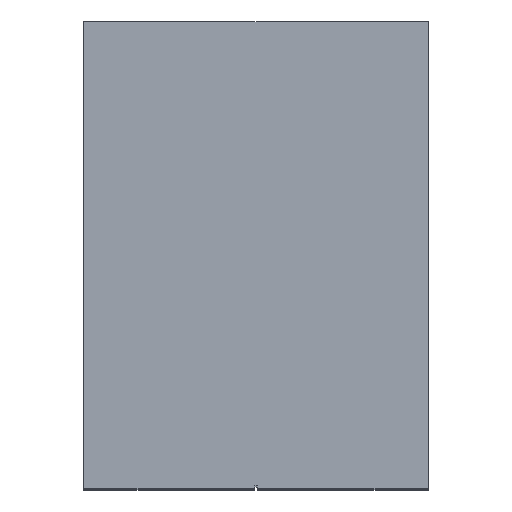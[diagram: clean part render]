
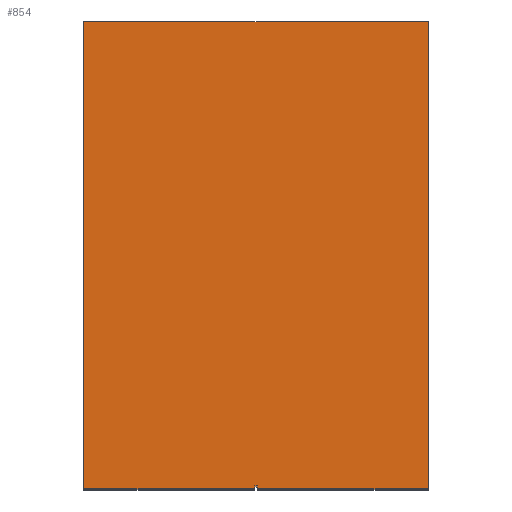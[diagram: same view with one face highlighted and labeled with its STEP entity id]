
A CAD part, top view. The second image highlights one B-rep face of the part: STEP entity #854.
In plain terms, the highlighted planar face has unit normal (0, 0, 1).
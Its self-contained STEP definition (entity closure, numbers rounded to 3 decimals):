
#60=FACE_OUTER_BOUND('',#99,.T.);
#99=EDGE_LOOP('',(#744,#745,#746,#747,#748,#749,#750,#751));
#238=VERTEX_POINT('',#2242);
#240=VERTEX_POINT('',#2245);
#251=VERTEX_POINT('',#2270);
#253=VERTEX_POINT('',#2274);
#274=VERTEX_POINT('',#2342);
#277=VERTEX_POINT('',#2358);
#280=VERTEX_POINT('',#2368);
#281=VERTEX_POINT('',#2370);
#422=EDGE_CURVE('',#240,#238,#1145,.T.);
#436=EDGE_CURVE('',#251,#253,#1159,.T.);
#459=EDGE_CURVE('',#238,#251,#1182,.T.);
#472=EDGE_CURVE('',#274,#240,#1195,.T.);
#480=EDGE_CURVE('',#253,#277,#1203,.T.);
#484=EDGE_CURVE('',#280,#277,#1207,.T.);
#485=EDGE_CURVE('',#281,#280,#1208,.T.);
#486=EDGE_CURVE('',#274,#281,#1209,.T.);
#744=ORIENTED_EDGE('',*,*,#484,.F.);
#745=ORIENTED_EDGE('',*,*,#485,.F.);
#746=ORIENTED_EDGE('',*,*,#486,.F.);
#747=ORIENTED_EDGE('',*,*,#472,.T.);
#748=ORIENTED_EDGE('',*,*,#422,.T.);
#749=ORIENTED_EDGE('',*,*,#459,.T.);
#750=ORIENTED_EDGE('',*,*,#436,.T.);
#751=ORIENTED_EDGE('',*,*,#480,.T.);
#815=PLANE('',#1495);
#854=ADVANCED_FACE('',(#60),#815,.T.);
#1145=LINE('',#2246,#1392);
#1159=LINE('',#2276,#1406);
#1182=LINE('',#2323,#1429);
#1195=LINE('',#2344,#1442);
#1203=LINE('',#2360,#1450);
#1207=LINE('',#2369,#1454);
#1208=LINE('',#2371,#1455);
#1209=LINE('',#2372,#1456);
#1392=VECTOR('',#1713,10.);
#1406=VECTOR('',#1733,10.);
#1429=VECTOR('',#1772,10.);
#1442=VECTOR('',#1791,595.);
#1450=VECTOR('',#1809,595.);
#1454=VECTOR('',#1817,1625.);
#1455=VECTOR('',#1818,1200.);
#1456=VECTOR('',#1819,1625.);
#1495=AXIS2_PLACEMENT_3D('',#2367,#1815,#1816);
#1713=DIRECTION('',(0.,1.,0.));
#1733=DIRECTION('',(0.,-1.,0.));
#1772=DIRECTION('',(1.,0.,0.));
#1791=DIRECTION('',(1.,0.,0.));
#1809=DIRECTION('',(1.,0.,0.));
#1815=DIRECTION('center_axis',(0.,0.,1.));
#1816=DIRECTION('ref_axis',(-1.,0.,0.));
#1817=DIRECTION('',(0.,-1.,0.));
#1818=DIRECTION('',(1.,0.,0.));
#1819=DIRECTION('',(0.,1.,0.));
#2242=CARTESIAN_POINT('',(595.,-1615.,2920.));
#2245=CARTESIAN_POINT('',(595.,-1625.,2920.));
#2246=CARTESIAN_POINT('',(595.,-1625.,2920.));
#2270=CARTESIAN_POINT('',(605.,-1615.,2920.));
#2274=CARTESIAN_POINT('',(605.,-1625.,2920.));
#2276=CARTESIAN_POINT('',(605.,-1615.,2920.));
#2323=CARTESIAN_POINT('',(595.,-1615.,2920.));
#2342=CARTESIAN_POINT('',(0.,-1625.,2920.));
#2344=CARTESIAN_POINT('',(0.,-1625.,2920.));
#2358=CARTESIAN_POINT('',(1200.,-1625.,2920.));
#2360=CARTESIAN_POINT('',(605.,-1625.,2920.));
#2367=CARTESIAN_POINT('Origin',(1200.,0.,2920.));
#2368=CARTESIAN_POINT('',(1200.,0.,2920.));
#2369=CARTESIAN_POINT('',(1200.,0.,2920.));
#2370=CARTESIAN_POINT('',(0.,0.,2920.));
#2371=CARTESIAN_POINT('',(0.,0.,2920.));
#2372=CARTESIAN_POINT('',(0.,-1625.,2920.));
